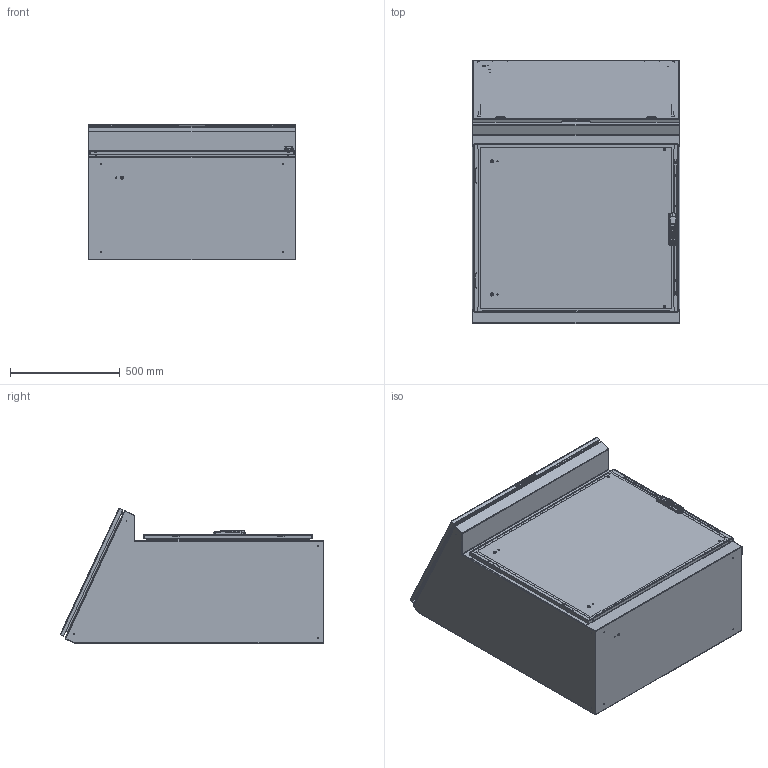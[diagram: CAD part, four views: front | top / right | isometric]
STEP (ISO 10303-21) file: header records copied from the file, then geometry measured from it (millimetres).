
FILE_DESCRIPTION (( 'STEP AP203' ), '1' );
FILE_NAME ('14384.step', '2013-04-12T04:51:22', ( '' ), ( '' ), 'SwSTEP 2.0', 'SolidWorks 2010', '' );
FILE_SCHEMA (( 'CONFIG_CONTROL_DESIGN' ));
Products named in the file (62): 60127175_60127175; 60127216_60127216; 60127140_60127140; 60127138_60127138; 87576035_87576035; 60127139_60127139; 11158132_THIKNESS .155 FIXED; 11158133_11581133; 60127372_60127372; 11158139_11158139; 11258030_11258030; 11458172_11458172; 60127208; 60127207; 11458171_11458171; 11358776_11358776; 11158180_11158180; 14384; 87784436; 87951812; 87784566; 23271001_After Weld; 87951816; 87784572; 87784582; 87951810_HANDLE ASSY; 87951813; 87784590; 60127172_60127172; 87920638_87920638; 87951818_87951818; 11359492_11359492; 11358980_11358980; 11258029_11258029; 11158141_11158141; 11158140_11158140; 60127277_60127277; 51232001_51232001; 60127173_60127173; 87792979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
Assembly tree (98 placements, depth 5):
  14384
    87951810_HANDLE ASSY
      87562939_87562939  x2
      60127277_60127277  x3
        60127173_60127173
        51232001_51232001
      87555298  x2
      87792981  x2
      11359492_11359492
        60127139_60127139  x2
        11358980_11358980
        60127175_60127175
        11158132_THIKNESS .155 FIXED  x4
        60127216_60127216  x2
          87576035_87576035
          60127140_60127140
          60127138_60127138
        11158133_11581133  x2
      87792979  x2
      60127372_60127372
        11158139_11158139
        11158140_11158140
        11258030_11258030
        11158141_11158141
        11458172_11458172
        11258029_11258029
        11158180_11158180
        11358776_11358776
        11458171_11458171
        60127207
        60127208
      87951813
        87951818_87951818
        60127172_60127172  x3
        87784590
        60100041_60100041  x2
          87931368_SLEEVE
          87931527_87931527
        87920638_87920638  x2
        60127101_After Weld  x2
    87951811
      87951814
        87931362_87931362  x4
        60100041_60100041
          87931368_SLEEVE
          87931527_87931527
        87951817_87951817
        99401225  x3
        60127101_After Weld  x2
        87784584
      87932903  x4
      46235001  x2
        46248001
        14241010
        46238001
        46236001
        46129003_87927840
        46237001
        46239002
    87784436
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Bounding box: 945.8 x 1198.33 x 616.33 mm (x, y, z)
Volume: 8127715.5 mm3; surface area: 9418508 mm2
Topology: 100 solids, 104 shells, 4567 faces, 11107 edges, 6728 vertices
Faces by surface type: plane 1775, cylinder 1376, bspline 563, cone 389, torus 389, sphere 75
Entity records: 125333 total; most frequent: CARTESIAN_POINT 55670, ORIENTED_EDGE 13314, DIRECTION 12331, EDGE_CURVE 6665, AXIS2_PLACEMENT_3D 4558, VERTEX_POINT 4127, VECTOR 3215, LINE 3215
